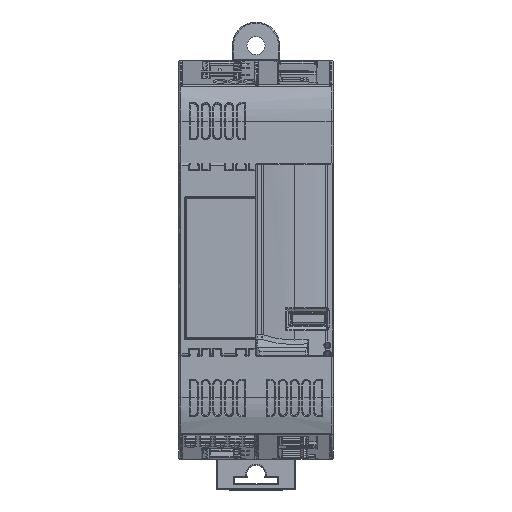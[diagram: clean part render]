
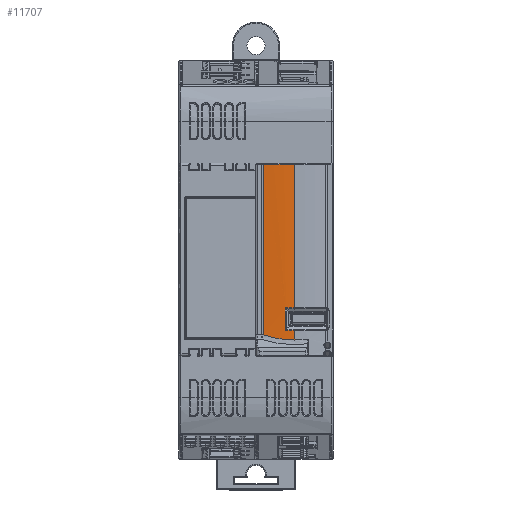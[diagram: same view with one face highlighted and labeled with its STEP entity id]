
A CAD part, top view. The second image highlights one B-rep face of the part: STEP entity #11707.
In plain terms, the highlighted cylindrical face has radius 71.119 mm (diameter 142.239 mm), a partial arc.
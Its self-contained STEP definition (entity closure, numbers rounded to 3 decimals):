
#74 = CARTESIAN_POINT ( 'NONE',  ( 25.049, -16.492, 65.115 ) ) ;
#1831 = CARTESIAN_POINT ( 'NONE',  ( 24.817, -16.253, 65.108 ) ) ;
#2409 = CARTESIAN_POINT ( 'NONE',  ( 24.812, -16.209, 65.108 ) ) ;
#2617 = VERTEX_POINT ( 'NONE', #111723 ) ;
#3361 = ORIENTED_EDGE ( 'NONE', *, *, #4326, .T. ) ;
#4326 = EDGE_CURVE ( 'NONE', #96654, #39391, #8785, .T. ) ;
#5111 = DIRECTION ( 'NONE',  ( 0., -1., 0. ) ) ;
#5855 = AXIS2_PLACEMENT_3D ( 'NONE', #74198, #11304, #46331 ) ;
#6418 = CARTESIAN_POINT ( 'NONE',  ( 24.812, -11.536, 65.108 ) ) ;
#6856 = CARTESIAN_POINT ( 'NONE',  ( 24.965, -11.236, 65.112 ) ) ;
#8785 = LINE ( 'NONE', #19403, #77444 ) ;
#10124 = CARTESIAN_POINT ( 'NONE',  ( 24.965, -16.464, 65.112 ) ) ;
#11076 = CARTESIAN_POINT ( 'NONE',  ( 24.812, -37.455, 65.108 ) ) ;
#11105 = B_SPLINE_CURVE_WITH_KNOTS ( 'NONE', 3,
 ( #66842, #94747, #22937, #69193 ),
 .UNSPECIFIED., .F., .F.,
 ( 4, 4 ),
 ( 0., 1. ),
 .UNSPECIFIED. ) ;
#11304 = DIRECTION ( 'NONE',  ( 0., -1., 0. ) ) ;
#11707 = ADVANCED_FACE ( 'NONE', ( #109680 ), #58659, .T. ) ;
#14068 = EDGE_CURVE ( 'NONE', #79854, #88558, #92382, .T. ) ;
#14321 = B_SPLINE_CURVE_WITH_KNOTS ( 'NONE', 3,
 ( #79822, #69739, #33546, #60265, #15732, #88147, #6856, #15163, #115974, #53100 ),
 .UNSPECIFIED., .F., .F.,
 ( 4, 2, 2, 2, 4 ),
 ( 0., 0., 0., 0., 0.001 ),
 .UNSPECIFIED. ) ;
#15163 = CARTESIAN_POINT ( 'NONE',  ( 25.049, -11.208, 65.115 ) ) ;
#15732 = CARTESIAN_POINT ( 'NONE',  ( 24.865, -11.322, 65.109 ) ) ;
#16063 = ORIENTED_EDGE ( 'NONE', *, *, #19181, .T. ) ;
#19181 = EDGE_CURVE ( 'NONE', #44050, #96654, #35905, .T. ) ;
#19403 = CARTESIAN_POINT ( 'NONE',  ( 27., -37.455, 65.141 ) ) ;
#20801 = CARTESIAN_POINT ( 'NONE',  ( 27., -16.497, -5.978 ) ) ;
#21722 = CARTESIAN_POINT ( 'NONE',  ( 19.726, -37.455, 64.768 ) ) ;
#22224 = DIRECTION ( 'NONE',  ( 0., 0., -1. ) ) ;
#22448 = DIRECTION ( 'NONE',  ( 0., 1., 0. ) ) ;
#22937 = CARTESIAN_POINT ( 'NONE',  ( 24.573, -18.781, 65.141 ) ) ;
#25578 = VECTOR ( 'NONE', #29474, 1000. ) ;
#29474 = DIRECTION ( 'NONE',  ( 0., 1., 0. ) ) ;
#29725 = DIRECTION ( 'NONE',  ( 0., -1., 0. ) ) ;
#30641 = LINE ( 'NONE', #21722, #77502 ) ;
#31354 = DIRECTION ( 'NONE',  ( 0., 0., 1. ) ) ;
#31947 = CARTESIAN_POINT ( 'NONE',  ( 27., -37.455, -5.978 ) ) ;
#32462 = EDGE_CURVE ( 'NONE', #88558, #44050, #14321, .T. ) ;
#33546 = CARTESIAN_POINT ( 'NONE',  ( 24.817, -11.447, 65.108 ) ) ;
#35905 = CIRCLE ( 'NONE', #102215, 71.119 ) ;
#36843 = CARTESIAN_POINT ( 'NONE',  ( 25.093, -16.497, 65.116 ) ) ;
#37439 = VERTEX_POINT ( 'NONE', #66771 ) ;
#38034 = CIRCLE ( 'NONE', #5855, 71.119 ) ;
#38748 = EDGE_LOOP ( 'NONE', ( #93367, #103365, #49154, #87688, #82143, #55850, #16063, #3361, #48704, #117329 ) ) ;
#39391 = VERTEX_POINT ( 'NONE', #110606 ) ;
#44050 = VERTEX_POINT ( 'NONE', #59309 ) ;
#44975 = DIRECTION ( 'NONE',  ( 0., 1., 0. ) ) ;
#45851 = VERTEX_POINT ( 'NONE', #100613 ) ;
#46331 = DIRECTION ( 'NONE',  ( 0., 0., 1. ) ) ;
#46339 = CARTESIAN_POINT ( 'NONE',  ( 24.865, -16.378, 65.109 ) ) ;
#46926 = CARTESIAN_POINT ( 'NONE',  ( 25.138, -16.497, 65.117 ) ) ;
#47882 = B_SPLINE_CURVE_WITH_KNOTS ( 'NONE', 3,
 ( #46926, #36843, #74, #10124, #74206, #46339, #65888, #1831, #2409, #74787 ),
 .UNSPECIFIED., .F., .F.,
 ( 4, 2, 2, 2, 4 ),
 ( 0., 0., 0., 0., 0.001 ),
 .UNSPECIFIED. ) ;
#48704 = ORIENTED_EDGE ( 'NONE', *, *, #68999, .T. ) ;
#49154 = ORIENTED_EDGE ( 'NONE', *, *, #85619, .T. ) ;
#53100 = CARTESIAN_POINT ( 'NONE',  ( 25.138, -11.203, 65.117 ) ) ;
#53331 = VECTOR ( 'NONE', #72963, 1000. ) ;
#54389 = CARTESIAN_POINT ( 'NONE',  ( 24.812, -16.164, 65.108 ) ) ;
#55253 = CARTESIAN_POINT ( 'NONE',  ( 27., -11.203, 65.141 ) ) ;
#55850 = ORIENTED_EDGE ( 'NONE', *, *, #32462, .T. ) ;
#58659 = CYLINDRICAL_SURFACE ( 'NONE', #99304, 71.119 ) ;
#59309 = CARTESIAN_POINT ( 'NONE',  ( 25.138, -11.203, 65.117 ) ) ;
#60188 = EDGE_CURVE ( 'NONE', #45851, #79854, #47882, .T. ) ;
#60265 = CARTESIAN_POINT ( 'NONE',  ( 24.843, -11.362, 65.109 ) ) ;
#60626 = EDGE_CURVE ( 'NONE', #65379, #2617, #11105, .T. ) ;
#61238 = CARTESIAN_POINT ( 'NONE',  ( 19.726, 22.2, 64.768 ) ) ;
#64045 = CARTESIAN_POINT ( 'NONE',  ( 19.726, -17.569, 64.768 ) ) ;
#65229 = LINE ( 'NONE', #101412, #53331 ) ;
#65379 = VERTEX_POINT ( 'NONE', #64045 ) ;
#65888 = CARTESIAN_POINT ( 'NONE',  ( 24.843, -16.338, 65.109 ) ) ;
#66771 = CARTESIAN_POINT ( 'NONE',  ( 27., -16.497, 65.141 ) ) ;
#66842 = CARTESIAN_POINT ( 'NONE',  ( 19.726, -17.569, 64.768 ) ) ;
#68999 = EDGE_CURVE ( 'NONE', #39391, #71184, #38034, .T. ) ;
#69193 = CARTESIAN_POINT ( 'NONE',  ( 27., -18.781, 65.141 ) ) ;
#69739 = CARTESIAN_POINT ( 'NONE',  ( 24.812, -11.491, 65.108 ) ) ;
#71184 = VERTEX_POINT ( 'NONE', #61238 ) ;
#72963 = DIRECTION ( 'NONE',  ( 0., 1., 0. ) ) ;
#74198 = CARTESIAN_POINT ( 'NONE',  ( 27., 22.2, -5.978 ) ) ;
#74206 = CARTESIAN_POINT ( 'NONE',  ( 24.926, -16.441, 65.111 ) ) ;
#74787 = CARTESIAN_POINT ( 'NONE',  ( 24.812, -16.164, 65.108 ) ) ;
#76805 = CARTESIAN_POINT ( 'NONE',  ( 27., -11.203, -5.978 ) ) ;
#77444 = VECTOR ( 'NONE', #44975, 1000. ) ;
#77502 = VECTOR ( 'NONE', #5111, 1000. ) ;
#79822 = CARTESIAN_POINT ( 'NONE',  ( 24.812, -11.536, 65.108 ) ) ;
#79854 = VERTEX_POINT ( 'NONE', #54389 ) ;
#82143 = ORIENTED_EDGE ( 'NONE', *, *, #14068, .T. ) ;
#85619 = EDGE_CURVE ( 'NONE', #37439, #45851, #103353, .T. ) ;
#87688 = ORIENTED_EDGE ( 'NONE', *, *, #60188, .T. ) ;
#88147 = CARTESIAN_POINT ( 'NONE',  ( 24.926, -11.259, 65.111 ) ) ;
#88558 = VERTEX_POINT ( 'NONE', #6418 ) ;
#92382 = LINE ( 'NONE', #11076, #25578 ) ;
#93367 = ORIENTED_EDGE ( 'NONE', *, *, #60626, .T. ) ;
#94630 = DIRECTION ( 'NONE',  ( 0., 1., 0. ) ) ;
#94747 = CARTESIAN_POINT ( 'NONE',  ( 22.145, -18.377, 65.017 ) ) ;
#95050 = EDGE_CURVE ( 'NONE', #2617, #37439, #65229, .T. ) ;
#96654 = VERTEX_POINT ( 'NONE', #55253 ) ;
#97682 = AXIS2_PLACEMENT_3D ( 'NONE', #20801, #29725, #102663 ) ;
#99304 = AXIS2_PLACEMENT_3D ( 'NONE', #31947, #22448, #31354 ) ;
#100613 = CARTESIAN_POINT ( 'NONE',  ( 25.138, -16.497, 65.117 ) ) ;
#101412 = CARTESIAN_POINT ( 'NONE',  ( 27., -37.455, 65.141 ) ) ;
#102215 = AXIS2_PLACEMENT_3D ( 'NONE', #76805, #94630, #22224 ) ;
#102663 = DIRECTION ( 'NONE',  ( 0., 0., 1. ) ) ;
#103353 = CIRCLE ( 'NONE', #97682, 71.119 ) ;
#103365 = ORIENTED_EDGE ( 'NONE', *, *, #95050, .T. ) ;
#109064 = EDGE_CURVE ( 'NONE', #71184, #65379, #30641, .T. ) ;
#109680 = FACE_OUTER_BOUND ( 'NONE', #38748, .T. ) ;
#110606 = CARTESIAN_POINT ( 'NONE',  ( 27., 22.2, 65.141 ) ) ;
#111723 = CARTESIAN_POINT ( 'NONE',  ( 27., -18.781, 65.141 ) ) ;
#115974 = CARTESIAN_POINT ( 'NONE',  ( 25.093, -11.203, 65.116 ) ) ;
#117329 = ORIENTED_EDGE ( 'NONE', *, *, #109064, .T. ) ;
